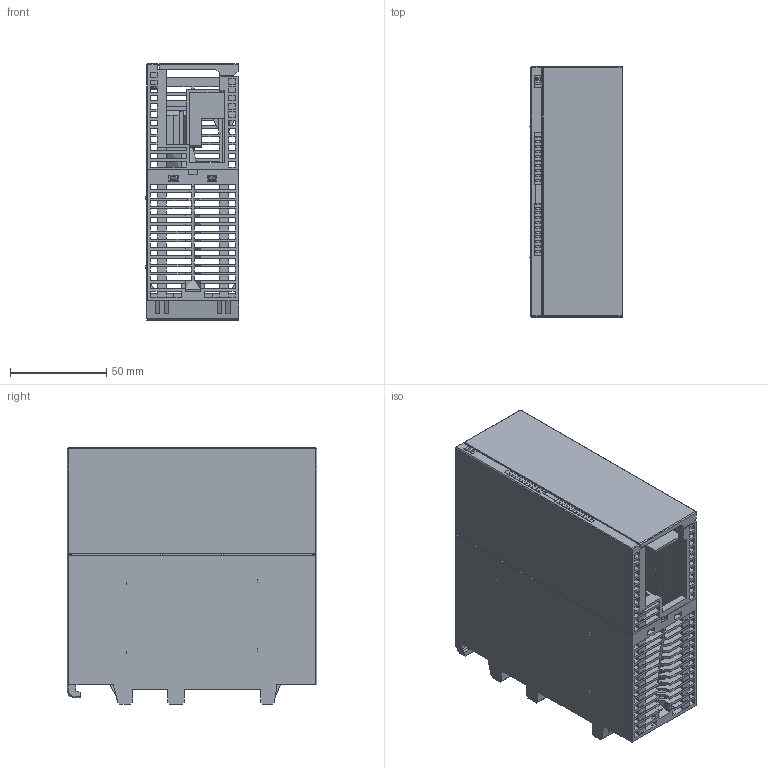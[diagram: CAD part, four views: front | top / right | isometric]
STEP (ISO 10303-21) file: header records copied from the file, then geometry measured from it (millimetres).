
FILE_DESCRIPTION(/* description */ (''),/* implementation_level */ '2;1');
FILE_NAME(/* name */ 'XG1-16T4',/* time_stamp */ '2020-12-22T17:49:53+08:00',/* author */ (''),/* organization */ (''),/* preprocessor_version */ 'ST-DEVELOPER v15',/* originating_system */ '',/* authorisation */ '');
FILE_SCHEMA (('AUTOMOTIVE_DESIGN'));
Length unit declared in the file: millimetre
Products named in the file (1): Document
Bounding box: 48.9 x 130 x 133.3 mm (x, y, z)
Volume: 12662.5 mm3; surface area: 159465.4 mm2
Topology: 4 solids, 7 shells, 2158 faces, 6977 edges, 4585 vertices
Faces by surface type: plane 1724, bspline 434
Entity records: 79096 total; most frequent: CARTESIAN_POINT 35292, ORIENTED_EDGE 13841, EDGE_CURVE 6946, B_SPLINE_CURVE_WITH_KNOTS 6208, VERTEX_POINT 4551, EDGE_LOOP 2399, ADVANCED_FACE 2157, FACE_OUTER_BOUND 2157
